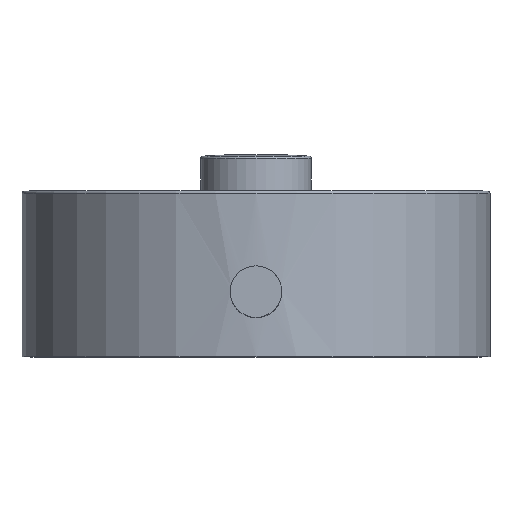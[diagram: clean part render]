
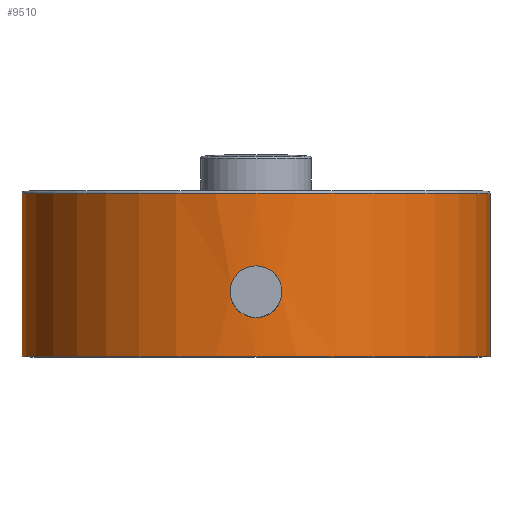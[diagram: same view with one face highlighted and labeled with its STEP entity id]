
A CAD part, top view. The second image highlights one B-rep face of the part: STEP entity #9510.
In plain terms, the highlighted cylindrical face has radius 12.7 mm (diameter 25.4 mm), a full revolution.
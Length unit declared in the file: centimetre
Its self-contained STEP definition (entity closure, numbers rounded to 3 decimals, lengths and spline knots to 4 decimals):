
#2112=B_SPLINE_CURVE_WITH_KNOTS('',3,(#12070,#12071,#12072,#12073,#12074,
#12075,#12076,#12077,#12078,#12079,#12080,#12081,#12082,#12083,#12084,#12085,
#12086,#12087,#12088,#12089,#12090,#12091,#12092,#12093,#12094,#12095,#12096,
#12097,#12098,#12099,#12100,#12101,#12102,#12103),.UNSPECIFIED.,.T.,.U.,
(4,2,2,2,2,2,2,2,2,2,2,2,2,2,2,2,4),(0.,0.0528,0.1056,
0.1583,0.2111,0.2639,0.3167,
0.3695,0.4223,0.475,0.5278,
0.5806,0.6334,0.6862,0.739,0.7917,
0.8445),.UNSPECIFIED.);
#3453=VERTEX_POINT('',#12064);
#3455=VERTEX_POINT('',#12069);
#3456=VERTEX_POINT('',#12104);
#4334=CIRCLE('',#10029,1.27);
#4336=CIRCLE('',#10032,1.27);
#4405=EDGE_CURVE('',#3453,#3453,#4334,.T.);
#4407=EDGE_CURVE('',#3455,#3455,#4336,.T.);
#4408=EDGE_CURVE('',#3456,#3456,#2112,.T.);
#5727=ORIENTED_EDGE('',*,*,#4407,.T.);
#5728=ORIENTED_EDGE('',*,*,#4408,.T.);
#5729=ORIENTED_EDGE('',*,*,#4405,.F.);
#8355=EDGE_LOOP('',(#5727));
#8356=EDGE_LOOP('',(#5728));
#8357=EDGE_LOOP('',(#5729));
#8935=FACE_BOUND('',#8355,.T.);
#8936=FACE_BOUND('',#8356,.T.);
#8937=FACE_BOUND('',#8357,.T.);
#9510=ADVANCED_FACE('',(#8935,#8936,#8937),#16028,.T.);
#10029=AXIS2_PLACEMENT_3D('',#12063,#10494,#10495);
#10031=AXIS2_PLACEMENT_3D('',#12067,#10498,#10499);
#10032=AXIS2_PLACEMENT_3D('',#12068,#10500,#10501);
#10494=DIRECTION('',(0.,1.,0.));
#10495=DIRECTION('',(-1.27,0.,0.));
#10498=DIRECTION('',(0.,1.,0.));
#10499=DIRECTION('',(1.27,0.,0.));
#10500=DIRECTION('',(0.,1.,0.));
#10501=DIRECTION('',(1.27,0.,0.));
#12063=CARTESIAN_POINT('',(0.,0.885,0.));
#12064=CARTESIAN_POINT('',(1.27,0.885,0.));
#12067=CARTESIAN_POINT('',(0.,0.45,0.));
#12068=CARTESIAN_POINT('',(0.,0.,0.));
#12069=CARTESIAN_POINT('',(1.27,0.,0.));
#12070=CARTESIAN_POINT('',(0.14,0.35,1.2623));
#12071=CARTESIAN_POINT('',(0.14,0.3324,1.2623));
#12072=CARTESIAN_POINT('',(0.1365,0.3136,1.2627));
#12073=CARTESIAN_POINT('',(0.1222,0.2792,1.2641));
#12074=CARTESIAN_POINT('',(0.1114,0.2634,1.2652));
#12075=CARTESIAN_POINT('',(0.0866,0.2386,1.2671));
#12076=CARTESIAN_POINT('',(0.0708,0.2278,1.2681));
#12077=CARTESIAN_POINT('',(0.0364,0.2135,1.2696));
#12078=CARTESIAN_POINT('',(0.0176,0.21,1.27));
#12079=CARTESIAN_POINT('',(-0.0176,0.21,1.27));
#12080=CARTESIAN_POINT('',(-0.0364,0.2135,1.2696));
#12081=CARTESIAN_POINT('',(-0.0708,0.2278,1.2681));
#12082=CARTESIAN_POINT('',(-0.0866,0.2386,1.2671));
#12083=CARTESIAN_POINT('',(-0.1114,0.2634,1.2652));
#12084=CARTESIAN_POINT('',(-0.1222,0.2792,1.2641));
#12085=CARTESIAN_POINT('',(-0.1365,0.3136,1.2627));
#12086=CARTESIAN_POINT('',(-0.14,0.3324,1.2623));
#12087=CARTESIAN_POINT('',(-0.14,0.3676,1.2623));
#12088=CARTESIAN_POINT('',(-0.1365,0.3864,1.2627));
#12089=CARTESIAN_POINT('',(-0.1222,0.4208,1.2641));
#12090=CARTESIAN_POINT('',(-0.1114,0.4366,1.2652));
#12091=CARTESIAN_POINT('',(-0.0866,0.4614,1.2671));
#12092=CARTESIAN_POINT('',(-0.0708,0.4722,1.2681));
#12093=CARTESIAN_POINT('',(-0.0364,0.4865,1.2696));
#12094=CARTESIAN_POINT('',(-0.0176,0.49,1.27));
#12095=CARTESIAN_POINT('',(0.0176,0.49,1.27));
#12096=CARTESIAN_POINT('',(0.0364,0.4865,1.2696));
#12097=CARTESIAN_POINT('',(0.0708,0.4722,1.2681));
#12098=CARTESIAN_POINT('',(0.0866,0.4614,1.2671));
#12099=CARTESIAN_POINT('',(0.1114,0.4366,1.2652));
#12100=CARTESIAN_POINT('',(0.1222,0.4208,1.2641));
#12101=CARTESIAN_POINT('',(0.1365,0.3864,1.2627));
#12102=CARTESIAN_POINT('',(0.14,0.3676,1.2623));
#12103=CARTESIAN_POINT('',(0.14,0.35,1.2623));
#12104=CARTESIAN_POINT('',(0.14,0.35,1.2623));
#16028=CYLINDRICAL_SURFACE('',#10031,1.27);
